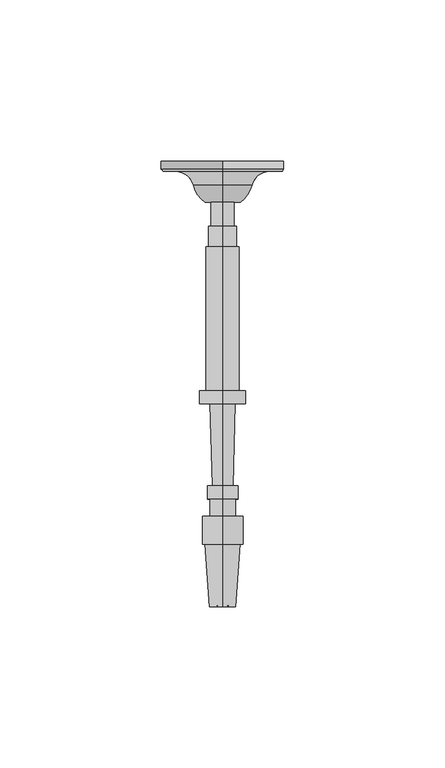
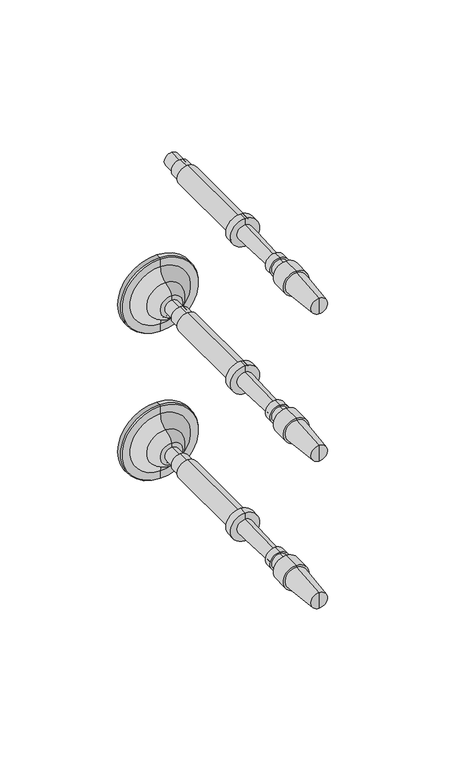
"""IFC4 building model written with IfcOpenShell, lengths in millimetres: railing geometry, RAILEASY CABLE RAILING CORNER TENSIONERS STAIR."""

from ifc_helpers import new_model, si_unit, point, frame, origin, place, context, project, spatial, polyline, circle_curve, ellipse_curve, trimmed, source, transform, mapped, element, save
from ifc_brep_helpers import plane_surface, cylinder_surface, revolved_surface, advanced_brep


def railing_364acd38(model_context):
    return source(origin(), model_context, "Body", "AdvancedBrep", [
        advanced_brep(
        [(4097.4568095, 20251.1146682, 33140.0282881), (4097.4568095, 20251.1146682, 33147.1720381), (4097.4568095, 20251.1146682, 33143.6001631), (4097.4568095, 20126.170779, 33143.6001631), (4097.4568095, 20125.8751146, 33147.6246235), (4097.4568095, 20125.8751146, 33139.5757028), (4097.4568095, 20145.2184786, 33149.045719), (4097.4568095, 20145.2184786, 33138.1546072), (4097.4568095, 20145.2184786, 33149.9386877), (4097.4568095, 20145.2184786, 33137.2616385), (4097.4568095, 20153.8505098, 33149.9386877), (4097.4568095, 20153.8505098, 33137.2616385), (4097.4568095, 20153.8505098, 33147.5574377), (4097.4568095, 20153.8505098, 33139.6428885), (4097.4568095, 20159.2083223, 33147.5574377), (4097.4568095, 20159.2083223, 33139.6428885), (4097.4568095, 20159.2083223, 33148.3511877), (4097.4568095, 20159.2083223, 33138.8491385), (4097.4568095, 20163.2762911, 33148.3511877), (4097.4568095, 20163.2762911, 33138.8491385), (4097.4568095, 20163.3203782, 33146.7643), (4097.4568095, 20163.3203782, 33140.4360262), (4097.4568095, 20188.7105814, 33147.4696944), (4097.4568095, 20188.7105814, 33139.7306319), (4097.4568095, 20188.7105814, 33150.7439131), (4097.4568095, 20188.7105814, 33136.4564131), (4097.4568095, 20192.6793314, 33150.7439131), (4097.4568095, 20192.6793314, 33136.4564131), (4097.4568095, 20192.6793314, 33148.7595381), (4097.4568095, 20192.6793314, 33138.4407881), (4097.4568095, 20237.4269877, 33148.7595381), (4097.4568095, 20237.4269877, 33138.4407881), (4097.4568095, 20237.4269877, 33147.9657881), (4097.4568095, 20237.4269877, 33139.2345381), (4097.4568095, 20243.7769877, 33147.9657881), (4097.4568095, 20243.7769877, 33139.2345381), (4097.4568095, 20243.7769877, 33147.1720381), (4097.4568095, 20243.7769877, 33140.0282881)],
        [
            (0, 1, circle_curve(frame((4097.4568095, 20251.1146682, 33143.6001631), z_axis=(0.0, 1.0, 0.0), x_axis=(0.0, 0.0, 1.0000000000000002)), 3.571875)),
            (1, 2),
            (2, 0),
            (1, 0, circle_curve(frame((4097.4568095, 20251.1146682, 33143.6001631), z_axis=(0.0, 1.0, 0.0), x_axis=(0.0, 0.0, 1.0000000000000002)), 3.571875)),
            (3, 4),
            (4, 5, circle_curve(frame((4097.4568095, 20125.8751146, 33143.6001631), z_axis=(0.0, -1.0, 0.0), x_axis=(0.0, 0.0, 1.0000000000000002)), 4.0244604)),
            (5, 3),
            (5, 4, circle_curve(frame((4097.4568095, 20125.8751146, 33143.6001631), z_axis=(0.0, -1.0, 0.0), x_axis=(0.0, 0.0, 1.0000000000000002)), 4.0244604)),
            (4, 6),
            (6, 7, circle_curve(frame((4097.4568095, 20145.2184786, 33143.6001631), z_axis=(0.0, -1.0, 0.0), x_axis=(0.0, 0.0, 1.0000000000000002)), 5.4455559)),
            (7, 5),
            (7, 6, circle_curve(frame((4097.4568095, 20145.2184786, 33143.6001631), z_axis=(0.0, -1.0, 0.0), x_axis=(0.0, 0.0, 1.0000000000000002)), 5.4455559)),
            (6, 8),
            (8, 9, circle_curve(frame((4097.4568095, 20145.2184786, 33143.6001631), z_axis=(0.0, -1.0, 0.0), x_axis=(0.0, 0.0, 1.0000000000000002)), 6.3385246)),
            (9, 7),
            (9, 8, circle_curve(frame((4097.4568095, 20145.2184786, 33143.6001631), z_axis=(0.0, -1.0, 0.0), x_axis=(0.0, 0.0, 1.0000000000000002)), 6.3385246)),
            (8, 10),
            (10, 11, circle_curve(frame((4097.4568095, 20153.8505098, 33143.6001631), z_axis=(0.0, -1.0, 0.0), x_axis=(0.0, 0.0, 1.0000000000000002)), 6.3385246)),
            (11, 9),
            (11, 10, circle_curve(frame((4097.4568095, 20153.8505098, 33143.6001631), z_axis=(0.0, -1.0, 0.0), x_axis=(0.0, 0.0, 1.0000000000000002)), 6.3385246)),
            (10, 12),
            (12, 13, circle_curve(frame((4097.4568095, 20153.8505098, 33143.6001631), z_axis=(0.0, -1.0, 0.0), x_axis=(0.0, 0.0, 1.0000000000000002)), 3.9572746)),
            (13, 11),
            (13, 12, circle_curve(frame((4097.4568095, 20153.8505098, 33143.6001631), z_axis=(0.0, -1.0, 0.0), x_axis=(0.0, 0.0, 1.0000000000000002)), 3.9572746)),
            (12, 14),
            (14, 15, circle_curve(frame((4097.4568095, 20159.2083223, 33143.6001631), z_axis=(0.0, -1.0, 0.0), x_axis=(0.0, 0.0, 1.0000000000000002)), 3.9572746)),
            (15, 13),
            (15, 14, circle_curve(frame((4097.4568095, 20159.2083223, 33143.6001631), z_axis=(0.0, -1.0, 0.0), x_axis=(0.0, 0.0, 1.0000000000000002)), 3.9572746)),
            (14, 16),
            (16, 17, circle_curve(frame((4097.4568095, 20159.2083223, 33143.6001631), z_axis=(0.0, -1.0, 0.0), x_axis=(0.0, 0.0, 1.0000000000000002)), 4.7510246)),
            (17, 15),
            (17, 16, circle_curve(frame((4097.4568095, 20159.2083223, 33143.6001631), z_axis=(0.0, -1.0, 0.0), x_axis=(0.0, 0.0, 1.0000000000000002)), 4.7510246)),
            (16, 18),
            (18, 19, circle_curve(frame((4097.4568095, 20163.2762911, 33143.6001631), z_axis=(0.0, -1.0, 0.0), x_axis=(0.0, 0.0, 1.0000000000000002)), 4.7510246)),
            (19, 17),
            (19, 18, circle_curve(frame((4097.4568095, 20163.2762911, 33143.6001631), z_axis=(0.0, -1.0, 0.0), x_axis=(0.0, 0.0, 1.0000000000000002)), 4.7510246)),
            (18, 20),
            (20, 21, circle_curve(frame((4097.4568095, 20163.3203782, 33143.6001631), z_axis=(0.0, -1.0, 0.0), x_axis=(0.0, 0.0, 1.0000000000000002)), 3.1641369)),
            (21, 19),
            (21, 20, circle_curve(frame((4097.4568095, 20163.3203782, 33143.6001631), z_axis=(0.0, -1.0, 0.0), x_axis=(0.0, 0.0, 1.0000000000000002)), 3.1641369)),
            (20, 22),
            (22, 23, circle_curve(frame((4097.4568095, 20188.7105814, 33143.6001631), z_axis=(0.0, -1.0, 0.0), x_axis=(0.0, 0.0, 1.0000000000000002)), 3.8695313)),
            (23, 21),
            (23, 22, circle_curve(frame((4097.4568095, 20188.7105814, 33143.6001631), z_axis=(0.0, -1.0, 0.0), x_axis=(0.0, 0.0, 1.0000000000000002)), 3.8695313)),
            (22, 24),
            (24, 25, circle_curve(frame((4097.4568095, 20188.7105814, 33143.6001631), z_axis=(0.0, -1.0, 0.0), x_axis=(0.0, 0.0, 1.0000000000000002)), 7.14375)),
            (25, 23),
            (25, 24, circle_curve(frame((4097.4568095, 20188.7105814, 33143.6001631), z_axis=(0.0, -1.0, 0.0), x_axis=(0.0, 0.0, 1.0000000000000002)), 7.14375)),
            (24, 26),
            (26, 27, circle_curve(frame((4097.4568095, 20192.6793314, 33143.6001631), z_axis=(0.0, -1.0, 0.0), x_axis=(0.0, 0.0, 1.0000000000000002)), 7.14375)),
            (27, 25),
            (27, 26, circle_curve(frame((4097.4568095, 20192.6793314, 33143.6001631), z_axis=(0.0, -1.0, 0.0), x_axis=(0.0, 0.0, 1.0000000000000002)), 7.14375)),
            (26, 28),
            (28, 29, circle_curve(frame((4097.4568095, 20192.6793314, 33143.6001631), z_axis=(0.0, -1.0, 0.0), x_axis=(0.0, 0.0, 1.0000000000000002)), 5.159375)),
            (29, 27),
            (29, 28, circle_curve(frame((4097.4568095, 20192.6793314, 33143.6001631), z_axis=(0.0, -1.0, 0.0), x_axis=(0.0, 0.0, 1.0000000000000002)), 5.159375)),
            (28, 30),
            (30, 31, circle_curve(frame((4097.4568095, 20237.4269877, 33143.6001631), z_axis=(0.0, -1.0, 0.0), x_axis=(0.0, 0.0, 1.0000000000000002)), 5.159375)),
            (31, 29),
            (31, 30, circle_curve(frame((4097.4568095, 20237.4269877, 33143.6001631), z_axis=(0.0, -1.0, 0.0), x_axis=(0.0, 0.0, 1.0000000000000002)), 5.159375)),
            (30, 32),
            (32, 33, circle_curve(frame((4097.4568095, 20237.4269877, 33143.6001631), z_axis=(0.0, -1.0, 0.0), x_axis=(0.0, 0.0, 1.0000000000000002)), 4.365625)),
            (33, 31),
            (33, 32, circle_curve(frame((4097.4568095, 20237.4269877, 33143.6001631), z_axis=(0.0, -1.0, 0.0), x_axis=(0.0, 0.0, 1.0000000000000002)), 4.365625)),
            (32, 34),
            (34, 35, circle_curve(frame((4097.4568095, 20243.7769877, 33143.6001631), z_axis=(0.0, -1.0, 0.0), x_axis=(0.0, 0.0, 1.0000000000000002)), 4.365625)),
            (35, 33),
            (35, 34, circle_curve(frame((4097.4568095, 20243.7769877, 33143.6001631), z_axis=(0.0, -1.0, 0.0), x_axis=(0.0, 0.0, 1.0000000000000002)), 4.365625)),
            (34, 36),
            (36, 37, circle_curve(frame((4097.4568095, 20243.7769877, 33143.6001631), z_axis=(0.0, -1.0, 0.0), x_axis=(0.0, 0.0, 1.0000000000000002)), 3.571875)),
            (37, 35),
            (37, 36, circle_curve(frame((4097.4568095, 20243.7769877, 33143.6001631), z_axis=(0.0, -1.0, 0.0), x_axis=(0.0, 0.0, 1.0000000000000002)), 3.571875)),
            (36, 1),
            (0, 37),
        ],
        [
            plane_surface(frame((4097.4568095, 20251.1146682, 33143.6001631), z_axis=(0.0, 1.0, 0.0), x_axis=(0.0, 0.0, 1.0))),
            revolved_surface(polyline([(4097.4568095, 20125.8751146, 33147.6246235), (4097.4568095, 20126.170779, 33143.6001631)]), (4097.4568095, 20126.170779, 33143.6001631), (0.0, -1.0, 0.0)),
            revolved_surface(polyline([(4097.4568095, 20145.2184786, 33149.045719), (4097.4568095, 20125.8751146, 33147.6246235)]), (4097.4568095, 20126.170779, 33143.6001631), (0.0, -1.0, 0.0)),
            plane_surface(frame((4097.4568095, 20145.2184786, 33143.6001631), z_axis=(0.0, -1.0, 0.0), x_axis=(0.0, 0.0, 1.0))),
            cylinder_surface(frame((4097.4568095, 20126.170779, 33143.6001631), z_axis=(0.0, -1.0, 0.0), x_axis=(0.0, 0.0, 1.0000000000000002)), 6.3385246),
            plane_surface(frame((4097.4568095, 20153.8505098, 33143.6001631), z_axis=(0.0, 1.0, 0.0), x_axis=(0.0, 0.0, 1.0))),
            cylinder_surface(frame((4097.4568095, 20126.170779, 33143.6001631), z_axis=(0.0, -1.0, 0.0), x_axis=(0.0, 0.0, 1.0000000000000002)), 3.9572746),
            plane_surface(frame((4097.4568095, 20159.2083223, 33143.6001631), z_axis=(0.0, -1.0, 0.0), x_axis=(0.0, 0.0, 1.0))),
            cylinder_surface(frame((4097.4568095, 20126.170779, 33143.6001631), z_axis=(0.0, -1.0, 0.0), x_axis=(0.0, 0.0, 1.0000000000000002)), 4.7510246),
            plane_surface(frame((4097.4568095, 20163.3203782, 33143.6001631), z_axis=(0.0, 1.0, 0.0), x_axis=(0.0, 0.0, 1.0))),
            revolved_surface(polyline([(4097.4568095, 20188.7105814, 33147.4696944), (4097.4568095, 20163.3203782, 33146.7643)]), (4097.4568095, 20126.170779, 33143.6001631), (0.0, -1.0, 0.0)),
            plane_surface(frame((4097.4568095, 20188.7105814, 33143.6001631), z_axis=(0.0, -1.0, 0.0), x_axis=(0.0, 0.0, 1.0))),
            cylinder_surface(frame((4097.4568095, 20126.170779, 33143.6001631), z_axis=(0.0, -1.0, 0.0), x_axis=(0.0, 0.0, 1.0000000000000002)), 7.14375),
            plane_surface(frame((4097.4568095, 20192.6793314, 33143.6001631), z_axis=(0.0, 1.0, 0.0), x_axis=(0.0, 0.0, 1.0))),
            cylinder_surface(frame((4097.4568095, 20126.170779, 33143.6001631), z_axis=(0.0, -1.0, 0.0), x_axis=(0.0, 0.0, 1.0000000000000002)), 5.159375),
            plane_surface(frame((4097.4568095, 20237.4269877, 33143.6001631), z_axis=(0.0, 1.0, 0.0), x_axis=(0.0, 0.0, 1.0))),
            cylinder_surface(frame((4097.4568095, 20126.170779, 33143.6001631), z_axis=(0.0, -1.0, 0.0), x_axis=(0.0, 0.0, 1.0000000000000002)), 4.365625),
            plane_surface(frame((4097.4568095, 20243.7769877, 33143.6001631), z_axis=(0.0, 1.0, 0.0), x_axis=(0.0, 0.0, 1.0))),
            cylinder_surface(frame((4097.4568095, 20126.170779, 33143.6001631), z_axis=(0.0, -1.0, 0.0), x_axis=(0.0, 0.0, 1.0000000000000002)), 3.571875),
        ],
        [
            (0, [[1, 2, 3]]),
            (0, [[4, -3, -2]]),
            (1, [[5, 6, 7]]),
            (1, [[-7, 8, -5]]),
            (2, [[-6, 9, 10, 11]]),
            (2, [[-8, -11, 12, -9]]),
            (3, [[-10, 13, 14, 15]]),
            (3, [[-12, -15, 16, -13]]),
            (4, [[-14, 17, 18, 19]]),
            (4, [[-16, -19, 20, -17]]),
            (5, [[-18, 21, 22, 23]]),
            (5, [[-20, -23, 24, -21]]),
            (6, [[-22, 25, 26, 27]]),
            (6, [[-24, -27, 28, -25]]),
            (7, [[-26, 29, 30, 31]]),
            (7, [[-28, -31, 32, -29]]),
            (8, [[-30, 33, 34, 35]]),
            (8, [[-32, -35, 36, -33]]),
            (9, [[-34, 37, 38, 39]]),
            (9, [[-36, -39, 40, -37]]),
            (10, [[-38, 41, 42, 43]]),
            (10, [[-40, -43, 44, -41]]),
            (11, [[-42, 45, 46, 47]]),
            (11, [[-44, -47, 48, -45]]),
            (12, [[-46, 49, 50, 51]]),
            (12, [[-48, -51, 52, -49]]),
            (13, [[-50, 53, 54, 55]]),
            (13, [[-52, -55, 56, -53]]),
            (14, [[-54, 57, 58, 59]]),
            (14, [[-56, -59, 60, -57]]),
            (15, [[-58, 61, 62, 63]]),
            (15, [[-60, -63, 64, -61]]),
            (16, [[-62, 65, 66, 67]]),
            (16, [[-64, -67, 68, -65]]),
            (17, [[-66, 69, 70, 71]]),
            (17, [[-68, -71, 72, -69]]),
            (18, [[-70, 73, -1, 74]]),
            (18, [[-72, -74, -4, -73]]),
        ],
    ),
        advanced_brep(
        [(4097.4568095, 20263.8073048, 33067.4001631), (4097.4568095, 20263.8073048, 33048.3501631), (4097.4568095, 20263.8073048, 33086.4501631), (4097.4568095, 20251.1146682, 33061.8769785), (4097.4568095, 20251.1146682, 33067.4001631), (4097.4568095, 20251.1146682, 33072.9233478), (4097.4568095, 20256.3907646, 33058.2720381), (4097.4568095, 20256.3907646, 33076.5282881), (4097.4568095, 20260.7563896, 33052.6458254), (4097.4568095, 20260.7563896, 33082.1545009), (4097.4568095, 20260.7563896, 33048.7762941), (4097.4568095, 20260.7563896, 33086.0240321), (4097.4568095, 20261.4260548, 33048.3501631), (4097.4568095, 20261.4260548, 33086.4501631)],
        [
            (0, 1),
            (1, 2, circle_curve(frame((4097.4568095, 20263.8073048, 33067.4001631), z_axis=(0.0, 1.0, 0.0), x_axis=(0.0, 0.0, 1.0)), 19.05)),
            (2, 0),
            (2, 1, circle_curve(frame((4097.4568095, 20263.8073048, 33067.4001631), z_axis=(0.0, 1.0, 0.0), x_axis=(0.0, 0.0, 1.0)), 19.05)),
            (3, 4),
            (4, 5),
            (5, 3, circle_curve(frame((4097.4568095, 20251.1146682, 33067.4001631), z_axis=(0.0, -1.0, 0.0), x_axis=(0.0, 0.0, 1.0)), 5.5231846)),
            (3, 5, circle_curve(frame((4097.4568095, 20251.1146682, 33067.4001631), z_axis=(0.0, -1.0, 0.0), x_axis=(0.0, 0.0, 1.0)), 5.5231846)),
            (6, 3, circle_curve(frame((4097.4568095, 20258.7151733, 33067.3374304), z_axis=(-1.0, 0.0, 0.0), x_axis=(0.0, -1.0, 0.0)), 9.3586438)),
            (5, 7, circle_curve(frame((4097.4568095, 20258.7151733, 33067.4628958), z_axis=(-1.0, 0.0, 0.0), x_axis=(0.0, -1.0, 0.0)), 9.3586438)),
            (7, 6, circle_curve(frame((4097.4568095, 20256.3907646, 33067.4001631), z_axis=(0.0, -1.0, 0.0), x_axis=(0.0, 0.0, 1.0)), 9.128125)),
            (6, 7, circle_curve(frame((4097.4568095, 20256.3907646, 33067.4001631), z_axis=(0.0, -1.0, 0.0), x_axis=(0.0, 0.0, 1.0)), 9.128125)),
            (8, 6, circle_curve(frame((4097.4568095, 20254.9481776, 33052.6458254), z_axis=(1.0, 0.0, 0.0), x_axis=(0.0, -1.0, 0.0)), 5.8082121)),
            (7, 9, circle_curve(frame((4097.4568095, 20254.9481776, 33082.1545009), z_axis=(1.0, 0.0, 0.0), x_axis=(0.0, -1.0, 0.0)), 5.8082121)),
            (9, 8, circle_curve(frame((4097.4568095, 20260.7563896, 33067.4001631), z_axis=(0.0, -1.0, 0.0), x_axis=(0.0, 0.0, 1.0)), 14.7543378)),
            (8, 9, circle_curve(frame((4097.4568095, 20260.7563896, 33067.4001631), z_axis=(0.0, -1.0, 0.0), x_axis=(0.0, 0.0, 1.0)), 14.7543378)),
            (10, 8),
            (9, 11),
            (11, 10, circle_curve(frame((4097.4568095, 20260.7563896, 33067.4001631), z_axis=(0.0, -1.0, 0.0), x_axis=(0.0, 0.0, 1.0)), 18.623869)),
            (10, 11, circle_curve(frame((4097.4568095, 20260.7563896, 33067.4001631), z_axis=(0.0, -1.0, 0.0), x_axis=(0.0, 0.0, 1.0)), 18.623869)),
            (12, 10),
            (11, 13),
            (13, 12, circle_curve(frame((4097.4568095, 20261.4260548, 33067.4001631), z_axis=(0.0, -1.0, 0.0), x_axis=(0.0, 0.0, 1.0)), 19.05)),
            (12, 13, circle_curve(frame((4097.4568095, 20261.4260548, 33067.4001631), z_axis=(0.0, -1.0, 0.0), x_axis=(0.0, 0.0, 1.0)), 19.05)),
            (1, 12),
            (13, 2),
        ],
        [
            plane_surface(frame((4097.4568095, 20263.8073048, 33067.4001631), z_axis=(0.0, 1.0, 0.0), x_axis=(0.0, 0.0, 1.0))),
            plane_surface(frame((4097.4568095, 20251.1146682, 33067.4001631), z_axis=(0.0, -1.0, 0.0), x_axis=(0.0, 0.0, 1.0))),
            revolved_surface(trimmed(ellipse_curve(frame((4097.4568095, 20258.7151733, 33067.4628958), z_axis=(-1.0, 0.0, 0.0), x_axis=(0.0, -1.0, 0.0)), 9.3586438, 9.3586438), [point((4097.4568095, 20251.1146682, 33072.9233478))], [point((4097.4568095, 20256.3907646, 33076.5282881))], True, "CARTESIAN"), (4097.4568095, 20263.8073048, 33067.4001631), (0.0, 1.0, 0.0)),
            revolved_surface(trimmed(ellipse_curve(frame((4097.4568095, 20254.9481776, 33082.1545009), z_axis=(1.0, 0.0, 0.0), x_axis=(0.0, -1.0, 0.0)), 5.8082121, 5.8082121), [point((4097.4568095, 20256.3907646, 33076.5282881))], [point((4097.4568095, 20260.7563896, 33082.1545009))], True, "CARTESIAN"), (4097.4568095, 20263.8073048, 33067.4001631), (0.0, 1.0, 0.0)),
            plane_surface(frame((4097.4568095, 20260.7563896, 33067.4001631), z_axis=(0.0, -1.0, 0.0), x_axis=(0.0, 0.0, 1.0))),
            revolved_surface(polyline([(4097.4568095, 20260.7563896, 33086.0240321), (4097.4568095, 20261.4260548, 33086.4501631)]), (4097.4568095, 20263.8073048, 33067.4001631), (0.0, 1.0, 0.0)),
            cylinder_surface(frame((4097.4568095, 20263.8073048, 33067.4001631), z_axis=(0.0, 1.0, 0.0), x_axis=(0.0, 0.0, 1.0)), 19.05),
        ],
        [
            (0, [[1, 2, 3]]),
            (0, [[-3, 4, -1]]),
            (1, [[5, 6, 7]]),
            (1, [[-6, -5, 8]]),
            (2, [[9, -7, 10, 11]]),
            (2, [[-10, -8, -9, 12]]),
            (3, [[13, -11, 14, 15]]),
            (3, [[-14, -12, -13, 16]]),
            (4, [[17, -15, 18, 19]]),
            (4, [[-18, -16, -17, 20]]),
            (5, [[21, -19, 22, 23]]),
            (5, [[-22, -20, -21, 24]]),
            (6, [[25, -23, 26, -2]]),
            (6, [[-26, -24, -25, -4]]),
        ],
    ),
        advanced_brep(
        [(4097.4568095, 20251.1146682, 33063.8282881), (4097.4568095, 20251.1146682, 33070.9720381), (4097.4568095, 20251.1146682, 33067.4001631), (4097.4568095, 20126.170779, 33067.4001631), (4097.4568095, 20125.8751146, 33071.4246235), (4097.4568095, 20125.8751146, 33063.3757028), (4097.4568095, 20145.2184786, 33072.845719), (4097.4568095, 20145.2184786, 33061.9546072), (4097.4568095, 20145.2184786, 33073.7386877), (4097.4568095, 20145.2184786, 33061.0616385), (4097.4568095, 20153.8505098, 33073.7386877), (4097.4568095, 20153.8505098, 33061.0616385), (4097.4568095, 20153.8505098, 33071.3574377), (4097.4568095, 20153.8505098, 33063.4428885), (4097.4568095, 20159.2083223, 33071.3574377), (4097.4568095, 20159.2083223, 33063.4428885), (4097.4568095, 20159.2083223, 33072.1511877), (4097.4568095, 20159.2083223, 33062.6491385), (4097.4568095, 20163.2762911, 33072.1511877), (4097.4568095, 20163.2762911, 33062.6491385), (4097.4568095, 20163.3203782, 33070.5643), (4097.4568095, 20163.3203782, 33064.2360262), (4097.4568095, 20188.7105814, 33071.2696944), (4097.4568095, 20188.7105814, 33063.5306319), (4097.4568095, 20188.7105814, 33074.5439131), (4097.4568095, 20188.7105814, 33060.2564131), (4097.4568095, 20192.6793314, 33074.5439131), (4097.4568095, 20192.6793314, 33060.2564131), (4097.4568095, 20192.6793314, 33072.5595381), (4097.4568095, 20192.6793314, 33062.2407881), (4097.4568095, 20237.4269877, 33072.5595381), (4097.4568095, 20237.4269877, 33062.2407881), (4097.4568095, 20237.4269877, 33071.7657881), (4097.4568095, 20237.4269877, 33063.0345381), (4097.4568095, 20243.7769877, 33071.7657881), (4097.4568095, 20243.7769877, 33063.0345381), (4097.4568095, 20243.7769877, 33070.9720381), (4097.4568095, 20243.7769877, 33063.8282881)],
        [
            (0, 1, circle_curve(frame((4097.4568095, 20251.1146682, 33067.4001631), z_axis=(0.0, 1.0, 0.0), x_axis=(0.0, 0.0, 1.0000000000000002)), 3.571875)),
            (1, 2),
            (2, 0),
            (1, 0, circle_curve(frame((4097.4568095, 20251.1146682, 33067.4001631), z_axis=(0.0, 1.0, 0.0), x_axis=(0.0, 0.0, 1.0000000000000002)), 3.571875)),
            (3, 4),
            (4, 5, circle_curve(frame((4097.4568095, 20125.8751146, 33067.4001631), z_axis=(0.0, -1.0, 0.0), x_axis=(0.0, 0.0, 1.0000000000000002)), 4.0244604)),
            (5, 3),
            (5, 4, circle_curve(frame((4097.4568095, 20125.8751146, 33067.4001631), z_axis=(0.0, -1.0, 0.0), x_axis=(0.0, 0.0, 1.0000000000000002)), 4.0244604)),
            (4, 6),
            (6, 7, circle_curve(frame((4097.4568095, 20145.2184786, 33067.4001631), z_axis=(0.0, -1.0, 0.0), x_axis=(0.0, 0.0, 1.0000000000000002)), 5.4455559)),
            (7, 5),
            (7, 6, circle_curve(frame((4097.4568095, 20145.2184786, 33067.4001631), z_axis=(0.0, -1.0, 0.0), x_axis=(0.0, 0.0, 1.0000000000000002)), 5.4455559)),
            (6, 8),
            (8, 9, circle_curve(frame((4097.4568095, 20145.2184786, 33067.4001631), z_axis=(0.0, -1.0, 0.0), x_axis=(0.0, 0.0, 1.0000000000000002)), 6.3385246)),
            (9, 7),
            (9, 8, circle_curve(frame((4097.4568095, 20145.2184786, 33067.4001631), z_axis=(0.0, -1.0, 0.0), x_axis=(0.0, 0.0, 1.0000000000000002)), 6.3385246)),
            (8, 10),
            (10, 11, circle_curve(frame((4097.4568095, 20153.8505098, 33067.4001631), z_axis=(0.0, -1.0, 0.0), x_axis=(0.0, 0.0, 1.0000000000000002)), 6.3385246)),
            (11, 9),
            (11, 10, circle_curve(frame((4097.4568095, 20153.8505098, 33067.4001631), z_axis=(0.0, -1.0, 0.0), x_axis=(0.0, 0.0, 1.0000000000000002)), 6.3385246)),
            (10, 12),
            (12, 13, circle_curve(frame((4097.4568095, 20153.8505098, 33067.4001631), z_axis=(0.0, -1.0, 0.0), x_axis=(0.0, 0.0, 1.0000000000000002)), 3.9572746)),
            (13, 11),
            (13, 12, circle_curve(frame((4097.4568095, 20153.8505098, 33067.4001631), z_axis=(0.0, -1.0, 0.0), x_axis=(0.0, 0.0, 1.0000000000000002)), 3.9572746)),
            (12, 14),
            (14, 15, circle_curve(frame((4097.4568095, 20159.2083223, 33067.4001631), z_axis=(0.0, -1.0, 0.0), x_axis=(0.0, 0.0, 1.0000000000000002)), 3.9572746)),
            (15, 13),
            (15, 14, circle_curve(frame((4097.4568095, 20159.2083223, 33067.4001631), z_axis=(0.0, -1.0, 0.0), x_axis=(0.0, 0.0, 1.0000000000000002)), 3.9572746)),
            (14, 16),
            (16, 17, circle_curve(frame((4097.4568095, 20159.2083223, 33067.4001631), z_axis=(0.0, -1.0, 0.0), x_axis=(0.0, 0.0, 1.0000000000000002)), 4.7510246)),
            (17, 15),
            (17, 16, circle_curve(frame((4097.4568095, 20159.2083223, 33067.4001631), z_axis=(0.0, -1.0, 0.0), x_axis=(0.0, 0.0, 1.0000000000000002)), 4.7510246)),
            (16, 18),
            (18, 19, circle_curve(frame((4097.4568095, 20163.2762911, 33067.4001631), z_axis=(0.0, -1.0, 0.0), x_axis=(0.0, 0.0, 1.0000000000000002)), 4.7510246)),
            (19, 17),
            (19, 18, circle_curve(frame((4097.4568095, 20163.2762911, 33067.4001631), z_axis=(0.0, -1.0, 0.0), x_axis=(0.0, 0.0, 1.0000000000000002)), 4.7510246)),
            (18, 20),
            (20, 21, circle_curve(frame((4097.4568095, 20163.3203782, 33067.4001631), z_axis=(0.0, -1.0, 0.0), x_axis=(0.0, 0.0, 1.0000000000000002)), 3.1641369)),
            (21, 19),
            (21, 20, circle_curve(frame((4097.4568095, 20163.3203782, 33067.4001631), z_axis=(0.0, -1.0, 0.0), x_axis=(0.0, 0.0, 1.0000000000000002)), 3.1641369)),
            (20, 22),
            (22, 23, circle_curve(frame((4097.4568095, 20188.7105814, 33067.4001631), z_axis=(0.0, -1.0, 0.0), x_axis=(0.0, 0.0, 1.0000000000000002)), 3.8695313)),
            (23, 21),
            (23, 22, circle_curve(frame((4097.4568095, 20188.7105814, 33067.4001631), z_axis=(0.0, -1.0, 0.0), x_axis=(0.0, 0.0, 1.0000000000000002)), 3.8695313)),
            (22, 24),
            (24, 25, circle_curve(frame((4097.4568095, 20188.7105814, 33067.4001631), z_axis=(0.0, -1.0, 0.0), x_axis=(0.0, 0.0, 1.0000000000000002)), 7.14375)),
            (25, 23),
            (25, 24, circle_curve(frame((4097.4568095, 20188.7105814, 33067.4001631), z_axis=(0.0, -1.0, 0.0), x_axis=(0.0, 0.0, 1.0000000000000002)), 7.14375)),
            (24, 26),
            (26, 27, circle_curve(frame((4097.4568095, 20192.6793314, 33067.4001631), z_axis=(0.0, -1.0, 0.0), x_axis=(0.0, 0.0, 1.0000000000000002)), 7.14375)),
            (27, 25),
            (27, 26, circle_curve(frame((4097.4568095, 20192.6793314, 33067.4001631), z_axis=(0.0, -1.0, 0.0), x_axis=(0.0, 0.0, 1.0000000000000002)), 7.14375)),
            (26, 28),
            (28, 29, circle_curve(frame((4097.4568095, 20192.6793314, 33067.4001631), z_axis=(0.0, -1.0, 0.0), x_axis=(0.0, 0.0, 1.0000000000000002)), 5.159375)),
            (29, 27),
            (29, 28, circle_curve(frame((4097.4568095, 20192.6793314, 33067.4001631), z_axis=(0.0, -1.0, 0.0), x_axis=(0.0, 0.0, 1.0000000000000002)), 5.159375)),
            (28, 30),
            (30, 31, circle_curve(frame((4097.4568095, 20237.4269877, 33067.4001631), z_axis=(0.0, -1.0, 0.0), x_axis=(0.0, 0.0, 1.0000000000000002)), 5.159375)),
            (31, 29),
            (31, 30, circle_curve(frame((4097.4568095, 20237.4269877, 33067.4001631), z_axis=(0.0, -1.0, 0.0), x_axis=(0.0, 0.0, 1.0000000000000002)), 5.159375)),
            (30, 32),
            (32, 33, circle_curve(frame((4097.4568095, 20237.4269877, 33067.4001631), z_axis=(0.0, -1.0, 0.0), x_axis=(0.0, 0.0, 1.0000000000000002)), 4.365625)),
            (33, 31),
            (33, 32, circle_curve(frame((4097.4568095, 20237.4269877, 33067.4001631), z_axis=(0.0, -1.0, 0.0), x_axis=(0.0, 0.0, 1.0000000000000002)), 4.365625)),
            (32, 34),
            (34, 35, circle_curve(frame((4097.4568095, 20243.7769877, 33067.4001631), z_axis=(0.0, -1.0, 0.0), x_axis=(0.0, 0.0, 1.0000000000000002)), 4.365625)),
            (35, 33),
            (35, 34, circle_curve(frame((4097.4568095, 20243.7769877, 33067.4001631), z_axis=(0.0, -1.0, 0.0), x_axis=(0.0, 0.0, 1.0000000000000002)), 4.365625)),
            (34, 36),
            (36, 37, circle_curve(frame((4097.4568095, 20243.7769877, 33067.4001631), z_axis=(0.0, -1.0, 0.0), x_axis=(0.0, 0.0, 1.0000000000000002)), 3.571875)),
            (37, 35),
            (37, 36, circle_curve(frame((4097.4568095, 20243.7769877, 33067.4001631), z_axis=(0.0, -1.0, 0.0), x_axis=(0.0, 0.0, 1.0000000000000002)), 3.571875)),
            (36, 1),
            (0, 37),
        ],
        [
            plane_surface(frame((4097.4568095, 20251.1146682, 33067.4001631), z_axis=(0.0, 1.0, 0.0), x_axis=(0.0, 0.0, 1.0))),
            revolved_surface(polyline([(4097.4568095, 20125.8751146, 33071.4246235), (4097.4568095, 20126.170779, 33067.4001631)]), (4097.4568095, 20126.170779, 33067.4001631), (0.0, -1.0, 0.0)),
            revolved_surface(polyline([(4097.4568095, 20145.2184786, 33072.845719), (4097.4568095, 20125.8751146, 33071.4246235)]), (4097.4568095, 20126.170779, 33067.4001631), (0.0, -1.0, 0.0)),
            plane_surface(frame((4097.4568095, 20145.2184786, 33067.4001631), z_axis=(0.0, -1.0, 0.0), x_axis=(0.0, 0.0, 1.0))),
            cylinder_surface(frame((4097.4568095, 20126.170779, 33067.4001631), z_axis=(0.0, -1.0, 0.0), x_axis=(0.0, 0.0, 1.0000000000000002)), 6.3385246),
            plane_surface(frame((4097.4568095, 20153.8505098, 33067.4001631), z_axis=(0.0, 1.0, 0.0), x_axis=(0.0, 0.0, 1.0))),
            cylinder_surface(frame((4097.4568095, 20126.170779, 33067.4001631), z_axis=(0.0, -1.0, 0.0), x_axis=(0.0, 0.0, 1.0000000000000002)), 3.9572746),
            plane_surface(frame((4097.4568095, 20159.2083223, 33067.4001631), z_axis=(0.0, -1.0, 0.0), x_axis=(0.0, 0.0, 1.0))),
            cylinder_surface(frame((4097.4568095, 20126.170779, 33067.4001631), z_axis=(0.0, -1.0, 0.0), x_axis=(0.0, 0.0, 1.0000000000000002)), 4.7510246),
            plane_surface(frame((4097.4568095, 20163.3203782, 33067.4001631), z_axis=(0.0, 1.0, 0.0), x_axis=(0.0, 0.0, 1.0))),
            revolved_surface(polyline([(4097.4568095, 20188.7105814, 33071.2696944), (4097.4568095, 20163.3203782, 33070.5643)]), (4097.4568095, 20126.170779, 33067.4001631), (0.0, -1.0, 0.0)),
            plane_surface(frame((4097.4568095, 20188.7105814, 33067.4001631), z_axis=(0.0, -1.0, 0.0), x_axis=(0.0, 0.0, 1.0))),
            cylinder_surface(frame((4097.4568095, 20126.170779, 33067.4001631), z_axis=(0.0, -1.0, 0.0), x_axis=(0.0, 0.0, 1.0000000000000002)), 7.14375),
            plane_surface(frame((4097.4568095, 20192.6793314, 33067.4001631), z_axis=(0.0, 1.0, 0.0), x_axis=(0.0, 0.0, 1.0))),
            cylinder_surface(frame((4097.4568095, 20126.170779, 33067.4001631), z_axis=(0.0, -1.0, 0.0), x_axis=(0.0, 0.0, 1.0000000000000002)), 5.159375),
            plane_surface(frame((4097.4568095, 20237.4269877, 33067.4001631), z_axis=(0.0, 1.0, 0.0), x_axis=(0.0, 0.0, 1.0))),
            cylinder_surface(frame((4097.4568095, 20126.170779, 33067.4001631), z_axis=(0.0, -1.0, 0.0), x_axis=(0.0, 0.0, 1.0000000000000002)), 4.365625),
            plane_surface(frame((4097.4568095, 20243.7769877, 33067.4001631), z_axis=(0.0, 1.0, 0.0), x_axis=(0.0, 0.0, 1.0))),
            cylinder_surface(frame((4097.4568095, 20126.170779, 33067.4001631), z_axis=(0.0, -1.0, 0.0), x_axis=(0.0, 0.0, 1.0000000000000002)), 3.571875),
        ],
        [
            (0, [[1, 2, 3]]),
            (0, [[4, -3, -2]]),
            (1, [[5, 6, 7]]),
            (1, [[-7, 8, -5]]),
            (2, [[-6, 9, 10, 11]]),
            (2, [[-8, -11, 12, -9]]),
            (3, [[-10, 13, 14, 15]]),
            (3, [[-12, -15, 16, -13]]),
            (4, [[-14, 17, 18, 19]]),
            (4, [[-16, -19, 20, -17]]),
            (5, [[-18, 21, 22, 23]]),
            (5, [[-20, -23, 24, -21]]),
            (6, [[-22, 25, 26, 27]]),
            (6, [[-24, -27, 28, -25]]),
            (7, [[-26, 29, 30, 31]]),
            (7, [[-28, -31, 32, -29]]),
            (8, [[-30, 33, 34, 35]]),
            (8, [[-32, -35, 36, -33]]),
            (9, [[-34, 37, 38, 39]]),
            (9, [[-36, -39, 40, -37]]),
            (10, [[-38, 41, 42, 43]]),
            (10, [[-40, -43, 44, -41]]),
            (11, [[-42, 45, 46, 47]]),
            (11, [[-44, -47, 48, -45]]),
            (12, [[-46, 49, 50, 51]]),
            (12, [[-48, -51, 52, -49]]),
            (13, [[-50, 53, 54, 55]]),
            (13, [[-52, -55, 56, -53]]),
            (14, [[-54, 57, 58, 59]]),
            (14, [[-56, -59, 60, -57]]),
            (15, [[-58, 61, 62, 63]]),
            (15, [[-60, -63, 64, -61]]),
            (16, [[-62, 65, 66, 67]]),
            (16, [[-64, -67, 68, -65]]),
            (17, [[-66, 69, 70, 71]]),
            (17, [[-68, -71, 72, -69]]),
            (18, [[-70, 73, -1, 74]]),
            (18, [[-72, -74, -4, -73]]),
        ],
    ),
        advanced_brep(
        [(4097.4568095, 20263.8073048, 32991.2001631), (4097.4568095, 20263.8073048, 32972.1501631), (4097.4568095, 20263.8073048, 33010.2501631), (4097.4568095, 20251.1146682, 32985.6769785), (4097.4568095, 20251.1146682, 32991.2001631), (4097.4568095, 20251.1146682, 32996.7233478), (4097.4568095, 20256.3907646, 32982.0720381), (4097.4568095, 20256.3907646, 33000.3282881), (4097.4568095, 20260.7563896, 32976.4458254), (4097.4568095, 20260.7563896, 33005.9545009), (4097.4568095, 20260.7563896, 32972.5762941), (4097.4568095, 20260.7563896, 33009.8240321), (4097.4568095, 20261.4260548, 32972.1501631), (4097.4568095, 20261.4260548, 33010.2501631)],
        [
            (0, 1),
            (1, 2, circle_curve(frame((4097.4568095, 20263.8073048, 32991.2001631), z_axis=(0.0, 1.0, 0.0), x_axis=(0.0, 0.0, 1.0)), 19.05)),
            (2, 0),
            (2, 1, circle_curve(frame((4097.4568095, 20263.8073048, 32991.2001631), z_axis=(0.0, 1.0, 0.0), x_axis=(0.0, 0.0, 1.0)), 19.05)),
            (3, 4),
            (4, 5),
            (5, 3, circle_curve(frame((4097.4568095, 20251.1146682, 32991.2001631), z_axis=(0.0, -1.0, 0.0), x_axis=(0.0, 0.0, 1.0)), 5.5231846)),
            (3, 5, circle_curve(frame((4097.4568095, 20251.1146682, 32991.2001631), z_axis=(0.0, -1.0, 0.0), x_axis=(0.0, 0.0, 1.0)), 5.5231846)),
            (6, 3, circle_curve(frame((4097.4568095, 20258.7151733, 32991.1374304), z_axis=(-1.0, 0.0, 0.0), x_axis=(0.0, -1.0, 0.0)), 9.3586438)),
            (5, 7, circle_curve(frame((4097.4568095, 20258.7151733, 32991.2628958), z_axis=(-1.0, 0.0, 0.0), x_axis=(0.0, -1.0, 0.0)), 9.3586438)),
            (7, 6, circle_curve(frame((4097.4568095, 20256.3907646, 32991.2001631), z_axis=(0.0, -1.0, 0.0), x_axis=(0.0, 0.0, 1.0)), 9.128125)),
            (6, 7, circle_curve(frame((4097.4568095, 20256.3907646, 32991.2001631), z_axis=(0.0, -1.0, 0.0), x_axis=(0.0, 0.0, 1.0)), 9.128125)),
            (8, 6, circle_curve(frame((4097.4568095, 20254.9481776, 32976.4458254), z_axis=(1.0, 0.0, 0.0), x_axis=(0.0, -1.0, 0.0)), 5.8082121)),
            (7, 9, circle_curve(frame((4097.4568095, 20254.9481776, 33005.9545009), z_axis=(1.0, 0.0, 0.0), x_axis=(0.0, -1.0, 0.0)), 5.8082121)),
            (9, 8, circle_curve(frame((4097.4568095, 20260.7563896, 32991.2001631), z_axis=(0.0, -1.0, 0.0), x_axis=(0.0, 0.0, 1.0)), 14.7543378)),
            (8, 9, circle_curve(frame((4097.4568095, 20260.7563896, 32991.2001631), z_axis=(0.0, -1.0, 0.0), x_axis=(0.0, 0.0, 1.0)), 14.7543378)),
            (10, 8),
            (9, 11),
            (11, 10, circle_curve(frame((4097.4568095, 20260.7563896, 32991.2001631), z_axis=(0.0, -1.0, 0.0), x_axis=(0.0, 0.0, 1.0)), 18.623869)),
            (10, 11, circle_curve(frame((4097.4568095, 20260.7563896, 32991.2001631), z_axis=(0.0, -1.0, 0.0), x_axis=(0.0, 0.0, 1.0)), 18.623869)),
            (12, 10),
            (11, 13),
            (13, 12, circle_curve(frame((4097.4568095, 20261.4260548, 32991.2001631), z_axis=(0.0, -1.0, 0.0), x_axis=(0.0, 0.0, 1.0)), 19.05)),
            (12, 13, circle_curve(frame((4097.4568095, 20261.4260548, 32991.2001631), z_axis=(0.0, -1.0, 0.0), x_axis=(0.0, 0.0, 1.0)), 19.05)),
            (1, 12),
            (13, 2),
        ],
        [
            plane_surface(frame((4097.4568095, 20263.8073048, 32991.2001631), z_axis=(0.0, 1.0, 0.0), x_axis=(0.0, 0.0, 1.0))),
            plane_surface(frame((4097.4568095, 20251.1146682, 32991.2001631), z_axis=(0.0, -1.0, 0.0), x_axis=(0.0, 0.0, 1.0))),
            revolved_surface(trimmed(ellipse_curve(frame((4097.4568095, 20258.7151733, 32991.2628958), z_axis=(-1.0, 0.0, 0.0), x_axis=(0.0, -1.0, 0.0)), 9.3586438, 9.3586438), [point((4097.4568095, 20251.1146682, 32996.7233478))], [point((4097.4568095, 20256.3907646, 33000.3282881))], True, "CARTESIAN"), (4097.4568095, 20263.8073048, 32991.2001631), (0.0, 1.0, 0.0)),
            revolved_surface(trimmed(ellipse_curve(frame((4097.4568095, 20254.9481776, 33005.9545009), z_axis=(1.0, 0.0, 0.0), x_axis=(0.0, -1.0, 0.0)), 5.8082121, 5.8082121), [point((4097.4568095, 20256.3907646, 33000.3282881))], [point((4097.4568095, 20260.7563896, 33005.9545009))], True, "CARTESIAN"), (4097.4568095, 20263.8073048, 32991.2001631), (0.0, 1.0, 0.0)),
            plane_surface(frame((4097.4568095, 20260.7563896, 32991.2001631), z_axis=(0.0, -1.0, 0.0), x_axis=(0.0, 0.0, 1.0))),
            revolved_surface(polyline([(4097.4568095, 20260.7563896, 33009.8240321), (4097.4568095, 20261.4260548, 33010.2501631)]), (4097.4568095, 20263.8073048, 32991.2001631), (0.0, 1.0, 0.0)),
            cylinder_surface(frame((4097.4568095, 20263.8073048, 32991.2001631), z_axis=(0.0, 1.0, 0.0), x_axis=(0.0, 0.0, 1.0)), 19.05),
        ],
        [
            (0, [[1, 2, 3]]),
            (0, [[-3, 4, -1]]),
            (1, [[5, 6, 7]]),
            (1, [[-6, -5, 8]]),
            (2, [[9, -7, 10, 11]]),
            (2, [[-10, -8, -9, 12]]),
            (3, [[13, -11, 14, 15]]),
            (3, [[-14, -12, -13, 16]]),
            (4, [[17, -15, 18, 19]]),
            (4, [[-18, -16, -17, 20]]),
            (5, [[21, -19, 22, 23]]),
            (5, [[-22, -20, -21, 24]]),
            (6, [[25, -23, 26, -2]]),
            (6, [[-26, -24, -25, -4]]),
        ],
    ),
        advanced_brep(
        [(4097.4568095, 20251.1146682, 32987.6282881), (4097.4568095, 20251.1146682, 32994.7720381), (4097.4568095, 20251.1146682, 32991.2001631), (4097.4568095, 20126.170779, 32991.2001631), (4097.4568095, 20125.8751146, 32995.2246235), (4097.4568095, 20125.8751146, 32987.1757028), (4097.4568095, 20145.2184786, 32996.645719), (4097.4568095, 20145.2184786, 32985.7546072), (4097.4568095, 20145.2184786, 32997.5386877), (4097.4568095, 20145.2184786, 32984.8616385), (4097.4568095, 20153.8505098, 32997.5386877), (4097.4568095, 20153.8505098, 32984.8616385), (4097.4568095, 20153.8505098, 32995.1574377), (4097.4568095, 20153.8505098, 32987.2428885), (4097.4568095, 20159.2083223, 32995.1574377), (4097.4568095, 20159.2083223, 32987.2428885), (4097.4568095, 20159.2083223, 32995.9511877), (4097.4568095, 20159.2083223, 32986.4491385), (4097.4568095, 20163.2762911, 32995.9511877), (4097.4568095, 20163.2762911, 32986.4491385), (4097.4568095, 20163.3203782, 32994.3643), (4097.4568095, 20163.3203782, 32988.0360262), (4097.4568095, 20188.7105814, 32995.0696944), (4097.4568095, 20188.7105814, 32987.3306319), (4097.4568095, 20188.7105814, 32998.3439131), (4097.4568095, 20188.7105814, 32984.0564131), (4097.4568095, 20192.6793314, 32998.3439131), (4097.4568095, 20192.6793314, 32984.0564131), (4097.4568095, 20192.6793314, 32996.3595381), (4097.4568095, 20192.6793314, 32986.0407881), (4097.4568095, 20237.4269877, 32996.3595381), (4097.4568095, 20237.4269877, 32986.0407881), (4097.4568095, 20237.4269877, 32995.5657881), (4097.4568095, 20237.4269877, 32986.8345381), (4097.4568095, 20243.7769877, 32995.5657881), (4097.4568095, 20243.7769877, 32986.8345381), (4097.4568095, 20243.7769877, 32994.7720381), (4097.4568095, 20243.7769877, 32987.6282881)],
        [
            (0, 1, circle_curve(frame((4097.4568095, 20251.1146682, 32991.2001631), z_axis=(0.0, 1.0, 0.0), x_axis=(0.0, 0.0, 1.0000000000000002)), 3.571875)),
            (1, 2),
            (2, 0),
            (1, 0, circle_curve(frame((4097.4568095, 20251.1146682, 32991.2001631), z_axis=(0.0, 1.0, 0.0), x_axis=(0.0, 0.0, 1.0000000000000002)), 3.571875)),
            (3, 4),
            (4, 5, circle_curve(frame((4097.4568095, 20125.8751146, 32991.2001631), z_axis=(0.0, -1.0, 0.0), x_axis=(0.0, 0.0, 1.0000000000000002)), 4.0244604)),
            (5, 3),
            (5, 4, circle_curve(frame((4097.4568095, 20125.8751146, 32991.2001631), z_axis=(0.0, -1.0, 0.0), x_axis=(0.0, 0.0, 1.0000000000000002)), 4.0244604)),
            (4, 6),
            (6, 7, circle_curve(frame((4097.4568095, 20145.2184786, 32991.2001631), z_axis=(0.0, -1.0, 0.0), x_axis=(0.0, 0.0, 1.0000000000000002)), 5.4455559)),
            (7, 5),
            (7, 6, circle_curve(frame((4097.4568095, 20145.2184786, 32991.2001631), z_axis=(0.0, -1.0, 0.0), x_axis=(0.0, 0.0, 1.0000000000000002)), 5.4455559)),
            (6, 8),
            (8, 9, circle_curve(frame((4097.4568095, 20145.2184786, 32991.2001631), z_axis=(0.0, -1.0, 0.0), x_axis=(0.0, 0.0, 1.0000000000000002)), 6.3385246)),
            (9, 7),
            (9, 8, circle_curve(frame((4097.4568095, 20145.2184786, 32991.2001631), z_axis=(0.0, -1.0, 0.0), x_axis=(0.0, 0.0, 1.0000000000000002)), 6.3385246)),
            (8, 10),
            (10, 11, circle_curve(frame((4097.4568095, 20153.8505098, 32991.2001631), z_axis=(0.0, -1.0, 0.0), x_axis=(0.0, 0.0, 1.0000000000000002)), 6.3385246)),
            (11, 9),
            (11, 10, circle_curve(frame((4097.4568095, 20153.8505098, 32991.2001631), z_axis=(0.0, -1.0, 0.0), x_axis=(0.0, 0.0, 1.0000000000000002)), 6.3385246)),
            (10, 12),
            (12, 13, circle_curve(frame((4097.4568095, 20153.8505098, 32991.2001631), z_axis=(0.0, -1.0, 0.0), x_axis=(0.0, 0.0, 1.0000000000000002)), 3.9572746)),
            (13, 11),
            (13, 12, circle_curve(frame((4097.4568095, 20153.8505098, 32991.2001631), z_axis=(0.0, -1.0, 0.0), x_axis=(0.0, 0.0, 1.0000000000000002)), 3.9572746)),
            (12, 14),
            (14, 15, circle_curve(frame((4097.4568095, 20159.2083223, 32991.2001631), z_axis=(0.0, -1.0, 0.0), x_axis=(0.0, 0.0, 1.0000000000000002)), 3.9572746)),
            (15, 13),
            (15, 14, circle_curve(frame((4097.4568095, 20159.2083223, 32991.2001631), z_axis=(0.0, -1.0, 0.0), x_axis=(0.0, 0.0, 1.0000000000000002)), 3.9572746)),
            (14, 16),
            (16, 17, circle_curve(frame((4097.4568095, 20159.2083223, 32991.2001631), z_axis=(0.0, -1.0, 0.0), x_axis=(0.0, 0.0, 1.0000000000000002)), 4.7510246)),
            (17, 15),
            (17, 16, circle_curve(frame((4097.4568095, 20159.2083223, 32991.2001631), z_axis=(0.0, -1.0, 0.0), x_axis=(0.0, 0.0, 1.0000000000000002)), 4.7510246)),
            (16, 18),
            (18, 19, circle_curve(frame((4097.4568095, 20163.2762911, 32991.2001631), z_axis=(0.0, -1.0, 0.0), x_axis=(0.0, 0.0, 1.0000000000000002)), 4.7510246)),
            (19, 17),
            (19, 18, circle_curve(frame((4097.4568095, 20163.2762911, 32991.2001631), z_axis=(0.0, -1.0, 0.0), x_axis=(0.0, 0.0, 1.0000000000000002)), 4.7510246)),
            (18, 20),
            (20, 21, circle_curve(frame((4097.4568095, 20163.3203782, 32991.2001631), z_axis=(0.0, -1.0, 0.0), x_axis=(0.0, 0.0, 1.0000000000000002)), 3.1641369)),
            (21, 19),
            (21, 20, circle_curve(frame((4097.4568095, 20163.3203782, 32991.2001631), z_axis=(0.0, -1.0, 0.0), x_axis=(0.0, 0.0, 1.0000000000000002)), 3.1641369)),
            (20, 22),
            (22, 23, circle_curve(frame((4097.4568095, 20188.7105814, 32991.2001631), z_axis=(0.0, -1.0, 0.0), x_axis=(0.0, 0.0, 1.0000000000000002)), 3.8695313)),
            (23, 21),
            (23, 22, circle_curve(frame((4097.4568095, 20188.7105814, 32991.2001631), z_axis=(0.0, -1.0, 0.0), x_axis=(0.0, 0.0, 1.0000000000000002)), 3.8695313)),
            (22, 24),
            (24, 25, circle_curve(frame((4097.4568095, 20188.7105814, 32991.2001631), z_axis=(0.0, -1.0, 0.0), x_axis=(0.0, 0.0, 1.0000000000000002)), 7.14375)),
            (25, 23),
            (25, 24, circle_curve(frame((4097.4568095, 20188.7105814, 32991.2001631), z_axis=(0.0, -1.0, 0.0), x_axis=(0.0, 0.0, 1.0000000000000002)), 7.14375)),
            (24, 26),
            (26, 27, circle_curve(frame((4097.4568095, 20192.6793314, 32991.2001631), z_axis=(0.0, -1.0, 0.0), x_axis=(0.0, 0.0, 1.0000000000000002)), 7.14375)),
            (27, 25),
            (27, 26, circle_curve(frame((4097.4568095, 20192.6793314, 32991.2001631), z_axis=(0.0, -1.0, 0.0), x_axis=(0.0, 0.0, 1.0000000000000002)), 7.14375)),
            (26, 28),
            (28, 29, circle_curve(frame((4097.4568095, 20192.6793314, 32991.2001631), z_axis=(0.0, -1.0, 0.0), x_axis=(0.0, 0.0, 1.0000000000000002)), 5.159375)),
            (29, 27),
            (29, 28, circle_curve(frame((4097.4568095, 20192.6793314, 32991.2001631), z_axis=(0.0, -1.0, 0.0), x_axis=(0.0, 0.0, 1.0000000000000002)), 5.159375)),
            (28, 30),
            (30, 31, circle_curve(frame((4097.4568095, 20237.4269877, 32991.2001631), z_axis=(0.0, -1.0, 0.0), x_axis=(0.0, 0.0, 1.0000000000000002)), 5.159375)),
            (31, 29),
            (31, 30, circle_curve(frame((4097.4568095, 20237.4269877, 32991.2001631), z_axis=(0.0, -1.0, 0.0), x_axis=(0.0, 0.0, 1.0000000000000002)), 5.159375)),
            (30, 32),
            (32, 33, circle_curve(frame((4097.4568095, 20237.4269877, 32991.2001631), z_axis=(0.0, -1.0, 0.0), x_axis=(0.0, 0.0, 1.0000000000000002)), 4.365625)),
            (33, 31),
            (33, 32, circle_curve(frame((4097.4568095, 20237.4269877, 32991.2001631), z_axis=(0.0, -1.0, 0.0), x_axis=(0.0, 0.0, 1.0000000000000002)), 4.365625)),
            (32, 34),
            (34, 35, circle_curve(frame((4097.4568095, 20243.7769877, 32991.2001631), z_axis=(0.0, -1.0, 0.0), x_axis=(0.0, 0.0, 1.0000000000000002)), 4.365625)),
            (35, 33),
            (35, 34, circle_curve(frame((4097.4568095, 20243.7769877, 32991.2001631), z_axis=(0.0, -1.0, 0.0), x_axis=(0.0, 0.0, 1.0000000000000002)), 4.365625)),
            (34, 36),
            (36, 37, circle_curve(frame((4097.4568095, 20243.7769877, 32991.2001631), z_axis=(0.0, -1.0, 0.0), x_axis=(0.0, 0.0, 1.0000000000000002)), 3.571875)),
            (37, 35),
            (37, 36, circle_curve(frame((4097.4568095, 20243.7769877, 32991.2001631), z_axis=(0.0, -1.0, 0.0), x_axis=(0.0, 0.0, 1.0000000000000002)), 3.571875)),
            (36, 1),
            (0, 37),
        ],
        [
            plane_surface(frame((4097.4568095, 20251.1146682, 32991.2001631), z_axis=(0.0, 1.0, 0.0), x_axis=(0.0, 0.0, 1.0))),
            revolved_surface(polyline([(4097.4568095, 20125.8751146, 32995.2246235), (4097.4568095, 20126.170779, 32991.2001631)]), (4097.4568095, 20126.170779, 32991.2001631), (0.0, -1.0, 0.0)),
            revolved_surface(polyline([(4097.4568095, 20145.2184786, 32996.645719), (4097.4568095, 20125.8751146, 32995.2246235)]), (4097.4568095, 20126.170779, 32991.2001631), (0.0, -1.0, 0.0)),
            plane_surface(frame((4097.4568095, 20145.2184786, 32991.2001631), z_axis=(0.0, -1.0, 0.0), x_axis=(0.0, 0.0, 1.0))),
            cylinder_surface(frame((4097.4568095, 20126.170779, 32991.2001631), z_axis=(0.0, -1.0, 0.0), x_axis=(0.0, 0.0, 1.0000000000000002)), 6.3385246),
            plane_surface(frame((4097.4568095, 20153.8505098, 32991.2001631), z_axis=(0.0, 1.0, 0.0), x_axis=(0.0, 0.0, 1.0))),
            cylinder_surface(frame((4097.4568095, 20126.170779, 32991.2001631), z_axis=(0.0, -1.0, 0.0), x_axis=(0.0, 0.0, 1.0000000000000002)), 3.9572746),
            plane_surface(frame((4097.4568095, 20159.2083223, 32991.2001631), z_axis=(0.0, -1.0, 0.0), x_axis=(0.0, 0.0, 1.0))),
            cylinder_surface(frame((4097.4568095, 20126.170779, 32991.2001631), z_axis=(0.0, -1.0, 0.0), x_axis=(0.0, 0.0, 1.0000000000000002)), 4.7510246),
            plane_surface(frame((4097.4568095, 20163.3203782, 32991.2001631), z_axis=(0.0, 1.0, 0.0), x_axis=(0.0, 0.0, 1.0))),
            revolved_surface(polyline([(4097.4568095, 20188.7105814, 32995.0696944), (4097.4568095, 20163.3203782, 32994.3643)]), (4097.4568095, 20126.170779, 32991.2001631), (0.0, -1.0, 0.0)),
            plane_surface(frame((4097.4568095, 20188.7105814, 32991.2001631), z_axis=(0.0, -1.0, 0.0), x_axis=(0.0, 0.0, 1.0))),
            cylinder_surface(frame((4097.4568095, 20126.170779, 32991.2001631), z_axis=(0.0, -1.0, 0.0), x_axis=(0.0, 0.0, 1.0000000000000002)), 7.14375),
            plane_surface(frame((4097.4568095, 20192.6793314, 32991.2001631), z_axis=(0.0, 1.0, 0.0), x_axis=(0.0, 0.0, 1.0))),
            cylinder_surface(frame((4097.4568095, 20126.170779, 32991.2001631), z_axis=(0.0, -1.0, 0.0), x_axis=(0.0, 0.0, 1.0000000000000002)), 5.159375),
            plane_surface(frame((4097.4568095, 20237.4269877, 32991.2001631), z_axis=(0.0, 1.0, 0.0), x_axis=(0.0, 0.0, 1.0))),
            cylinder_surface(frame((4097.4568095, 20126.170779, 32991.2001631), z_axis=(0.0, -1.0, 0.0), x_axis=(0.0, 0.0, 1.0000000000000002)), 4.365625),
            plane_surface(frame((4097.4568095, 20243.7769877, 32991.2001631), z_axis=(0.0, 1.0, 0.0), x_axis=(0.0, 0.0, 1.0))),
            cylinder_surface(frame((4097.4568095, 20126.170779, 32991.2001631), z_axis=(0.0, -1.0, 0.0), x_axis=(0.0, 0.0, 1.0000000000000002)), 3.571875),
        ],
        [
            (0, [[1, 2, 3]]),
            (0, [[4, -3, -2]]),
            (1, [[5, 6, 7]]),
            (1, [[-7, 8, -5]]),
            (2, [[-6, 9, 10, 11]]),
            (2, [[-8, -11, 12, -9]]),
            (3, [[-10, 13, 14, 15]]),
            (3, [[-12, -15, 16, -13]]),
            (4, [[-14, 17, 18, 19]]),
            (4, [[-16, -19, 20, -17]]),
            (5, [[-18, 21, 22, 23]]),
            (5, [[-20, -23, 24, -21]]),
            (6, [[-22, 25, 26, 27]]),
            (6, [[-24, -27, 28, -25]]),
            (7, [[-26, 29, 30, 31]]),
            (7, [[-28, -31, 32, -29]]),
            (8, [[-30, 33, 34, 35]]),
            (8, [[-32, -35, 36, -33]]),
            (9, [[-34, 37, 38, 39]]),
            (9, [[-36, -39, 40, -37]]),
            (10, [[-38, 41, 42, 43]]),
            (10, [[-40, -43, 44, -41]]),
            (11, [[-42, 45, 46, 47]]),
            (11, [[-44, -47, 48, -45]]),
            (12, [[-46, 49, 50, 51]]),
            (12, [[-48, -51, 52, -49]]),
            (13, [[-50, 53, 54, 55]]),
            (13, [[-52, -55, 56, -53]]),
            (14, [[-54, 57, 58, 59]]),
            (14, [[-56, -59, 60, -57]]),
            (15, [[-58, 61, 62, 63]]),
            (15, [[-60, -63, 64, -61]]),
            (16, [[-62, 65, 66, 67]]),
            (16, [[-64, -67, 68, -65]]),
            (17, [[-66, 69, 70, 71]]),
            (17, [[-68, -71, 72, -69]]),
            (18, [[-70, 73, -1, 74]]),
            (18, [[-72, -74, -4, -73]]),
        ],
    ),
    ])


if __name__ == "__main__":
    model = new_model("IFC4")
    model_context = context("Model", 3, world=origin())
    ifc_project = project(units=[si_unit("LENGTHUNIT", "METRE", prefix="MILLI")], contexts=[model_context])
    site = spatial("IfcSite", under=ifc_project)
    building = spatial("IfcBuilding", under=site)
    placement = place(None, origin())
    railing_shape = railing_364acd38(model_context)
    element("IfcRailing", 1, ObjectType="RAILEASY CABLE RAILING CORNER TENSIONERS STAIR", at=placement, inside=building, context=model_context, shape_type="MappedRepresentation", body=[
        mapped(railing_shape, transform((0.0, 0.0, 0.0), x_axis=(1.0, 0.0, 0.0), y_axis=(0.0, 1.0, 0.0), z_axis=(0.0, 0.0, 1.0))),
    ])
    save(model, "model.ifc")
